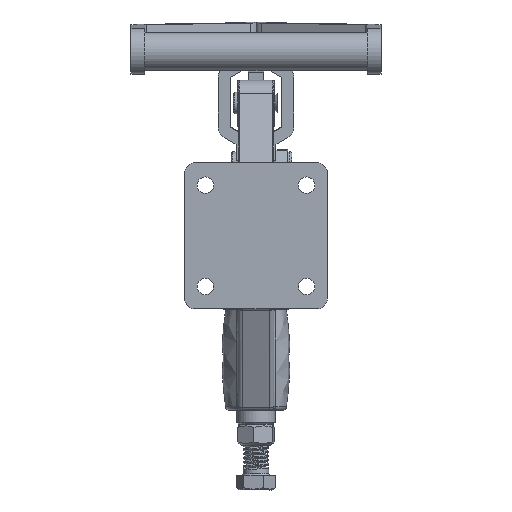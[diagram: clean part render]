
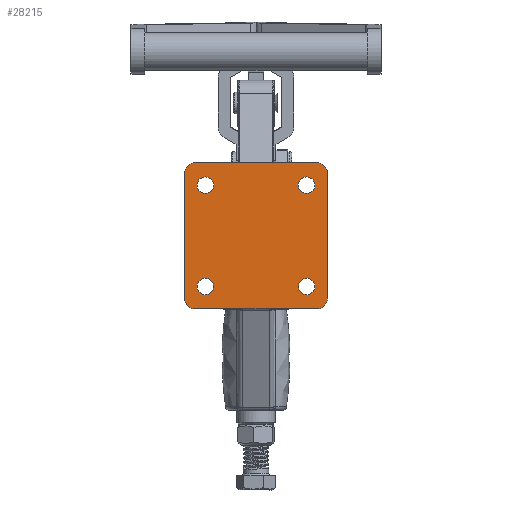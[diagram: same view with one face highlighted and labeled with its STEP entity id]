
A CAD part, front view. The second image highlights one B-rep face of the part: STEP entity #28215.
In plain terms, the highlighted planar face has unit normal (0, -1, 0).
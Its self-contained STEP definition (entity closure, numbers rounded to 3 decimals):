
#353=FACE_BOUND('',#4174,.T.);
#354=FACE_BOUND('',#4175,.T.);
#355=FACE_BOUND('',#4176,.T.);
#356=FACE_BOUND('',#4177,.T.);
#434=PLANE('',#30186);
#2521=FACE_OUTER_BOUND('',#4173,.T.);
#4173=EDGE_LOOP('',(#19597,#19598,#19599,#19600,#19601,#19602,#19603,#19604));
#4174=EDGE_LOOP('',(#19605,#19606));
#4175=EDGE_LOOP('',(#19607,#19608));
#4176=EDGE_LOOP('',(#19609,#19610));
#4177=EDGE_LOOP('',(#19611,#19612));
#5921=LINE('',#41172,#8499);
#5932=LINE('',#41276,#8510);
#5935=LINE('',#41282,#8513);
#5936=LINE('',#41287,#8514);
#8499=VECTOR('',#33028,1000.);
#8510=VECTOR('',#33061,1000.);
#8513=VECTOR('',#33066,1000.);
#8514=VECTOR('',#33071,1000.);
#11064=CIRCLE('',#30129,4.15);
#11065=CIRCLE('',#30130,4.15);
#11068=CIRCLE('',#30134,4.15);
#11069=CIRCLE('',#30135,4.15);
#11072=CIRCLE('',#30139,4.15);
#11073=CIRCLE('',#30140,4.15);
#11076=CIRCLE('',#30144,4.15);
#11077=CIRCLE('',#30145,4.15);
#11099=CIRCLE('',#30187,5.);
#11100=CIRCLE('',#30188,5.);
#11101=CIRCLE('',#30189,5.);
#11102=CIRCLE('',#30190,5.);
#12230=VERTEX_POINT('',#40829);
#12231=VERTEX_POINT('',#40830);
#12234=VERTEX_POINT('',#40839);
#12235=VERTEX_POINT('',#40840);
#12238=VERTEX_POINT('',#40849);
#12239=VERTEX_POINT('',#40850);
#12242=VERTEX_POINT('',#40859);
#12243=VERTEX_POINT('',#40860);
#12307=VERTEX_POINT('',#41170);
#12308=VERTEX_POINT('',#41171);
#12327=VERTEX_POINT('',#41274);
#12328=VERTEX_POINT('',#41275);
#12329=VERTEX_POINT('',#41280);
#12330=VERTEX_POINT('',#41281);
#12331=VERTEX_POINT('',#41284);
#12332=VERTEX_POINT('',#41286);
#15059=EDGE_CURVE('',#12230,#12231,#11064,.T.);
#15060=EDGE_CURVE('',#12231,#12230,#11065,.T.);
#15064=EDGE_CURVE('',#12234,#12235,#11068,.T.);
#15065=EDGE_CURVE('',#12235,#12234,#11069,.T.);
#15069=EDGE_CURVE('',#12238,#12239,#11072,.T.);
#15070=EDGE_CURVE('',#12239,#12238,#11073,.T.);
#15074=EDGE_CURVE('',#12242,#12243,#11076,.T.);
#15075=EDGE_CURVE('',#12243,#12242,#11077,.T.);
#15147=EDGE_CURVE('',#12307,#12308,#5921,.T.);
#15168=EDGE_CURVE('',#12327,#12328,#5932,.T.);
#15171=EDGE_CURVE('',#12329,#12330,#5935,.T.);
#15172=EDGE_CURVE('',#12330,#12308,#11099,.T.);
#15173=EDGE_CURVE('',#12307,#12331,#11100,.T.);
#15174=EDGE_CURVE('',#12332,#12331,#5936,.T.);
#15175=EDGE_CURVE('',#12332,#12327,#11101,.T.);
#15176=EDGE_CURVE('',#12328,#12329,#11102,.T.);
#19597=ORIENTED_EDGE('',*,*,#15171,.T.);
#19598=ORIENTED_EDGE('',*,*,#15172,.T.);
#19599=ORIENTED_EDGE('',*,*,#15147,.F.);
#19600=ORIENTED_EDGE('',*,*,#15173,.T.);
#19601=ORIENTED_EDGE('',*,*,#15174,.F.);
#19602=ORIENTED_EDGE('',*,*,#15175,.T.);
#19603=ORIENTED_EDGE('',*,*,#15168,.T.);
#19604=ORIENTED_EDGE('',*,*,#15176,.T.);
#19605=ORIENTED_EDGE('',*,*,#15059,.T.);
#19606=ORIENTED_EDGE('',*,*,#15060,.T.);
#19607=ORIENTED_EDGE('',*,*,#15064,.T.);
#19608=ORIENTED_EDGE('',*,*,#15065,.T.);
#19609=ORIENTED_EDGE('',*,*,#15074,.T.);
#19610=ORIENTED_EDGE('',*,*,#15075,.T.);
#19611=ORIENTED_EDGE('',*,*,#15069,.T.);
#19612=ORIENTED_EDGE('',*,*,#15070,.T.);
#28215=ADVANCED_FACE('',(#2521,#353,#354,#355,#356),#434,.F.);
#30129=AXIS2_PLACEMENT_3D('',#40831,#32888,#32889);
#30130=AXIS2_PLACEMENT_3D('',#40832,#32890,#32891);
#30134=AXIS2_PLACEMENT_3D('',#40841,#32899,#32900);
#30135=AXIS2_PLACEMENT_3D('',#40842,#32901,#32902);
#30139=AXIS2_PLACEMENT_3D('',#40851,#32910,#32911);
#30140=AXIS2_PLACEMENT_3D('',#40852,#32912,#32913);
#30144=AXIS2_PLACEMENT_3D('',#40861,#32921,#32922);
#30145=AXIS2_PLACEMENT_3D('',#40862,#32923,#32924);
#30186=AXIS2_PLACEMENT_3D('',#41279,#33064,#33065);
#30187=AXIS2_PLACEMENT_3D('',#41283,#33067,#33068);
#30188=AXIS2_PLACEMENT_3D('',#41285,#33069,#33070);
#30189=AXIS2_PLACEMENT_3D('',#41288,#33072,#33073);
#30190=AXIS2_PLACEMENT_3D('',#41289,#33074,#33075);
#32888=DIRECTION('center_axis',(0.,1.,0.));
#32889=DIRECTION('ref_axis',(0.,0.,1.));
#32890=DIRECTION('center_axis',(0.,1.,0.));
#32891=DIRECTION('ref_axis',(0.,0.,1.));
#32899=DIRECTION('center_axis',(0.,1.,0.));
#32900=DIRECTION('ref_axis',(0.,0.,1.));
#32901=DIRECTION('center_axis',(0.,1.,0.));
#32902=DIRECTION('ref_axis',(0.,0.,1.));
#32910=DIRECTION('center_axis',(0.,1.,0.));
#32911=DIRECTION('ref_axis',(0.,0.,1.));
#32912=DIRECTION('center_axis',(0.,1.,0.));
#32913=DIRECTION('ref_axis',(0.,0.,1.));
#32921=DIRECTION('center_axis',(0.,1.,0.));
#32922=DIRECTION('ref_axis',(0.,0.,1.));
#32923=DIRECTION('center_axis',(0.,1.,0.));
#32924=DIRECTION('ref_axis',(0.,0.,1.));
#33028=DIRECTION('',(0.,0.,-1.));
#33061=DIRECTION('',(0.,0.,-1.));
#33064=DIRECTION('center_axis',(0.,1.,0.));
#33065=DIRECTION('ref_axis',(0.,0.,1.));
#33066=DIRECTION('',(1.,0.,0.));
#33067=DIRECTION('center_axis',(0.,-1.,0.));
#33068=DIRECTION('ref_axis',(0.,0.,1.));
#33069=DIRECTION('center_axis',(0.,-1.,0.));
#33070=DIRECTION('ref_axis',(0.,0.,1.));
#33071=DIRECTION('',(1.,0.,0.));
#33072=DIRECTION('center_axis',(0.,-1.,0.));
#33073=DIRECTION('ref_axis',(0.,0.,1.));
#33074=DIRECTION('center_axis',(0.,-1.,0.));
#33075=DIRECTION('ref_axis',(0.,0.,1.));
#40829=CARTESIAN_POINT('',(25.4,0.,15.35));
#40830=CARTESIAN_POINT('',(25.4,0.,7.05));
#40831=CARTESIAN_POINT('Origin',(25.4,0.,11.2));
#40832=CARTESIAN_POINT('Origin',(25.4,0.,11.2));
#40839=CARTESIAN_POINT('',(25.4,0.,66.15));
#40840=CARTESIAN_POINT('',(25.4,0.,57.85));
#40841=CARTESIAN_POINT('Origin',(25.4,0.,62.));
#40842=CARTESIAN_POINT('Origin',(25.4,0.,62.));
#40849=CARTESIAN_POINT('',(-25.4,0.,15.35));
#40850=CARTESIAN_POINT('',(-25.4,0.,7.05));
#40851=CARTESIAN_POINT('Origin',(-25.4,0.,11.2));
#40852=CARTESIAN_POINT('Origin',(-25.4,0.,11.2));
#40859=CARTESIAN_POINT('',(-25.4,0.,66.15));
#40860=CARTESIAN_POINT('',(-25.4,0.,57.85));
#40861=CARTESIAN_POINT('Origin',(-25.4,0.,62.));
#40862=CARTESIAN_POINT('Origin',(-25.4,0.,62.));
#41170=CARTESIAN_POINT('',(35.7,0.,68.2));
#41171=CARTESIAN_POINT('',(35.7,0.,5.));
#41172=CARTESIAN_POINT('',(35.7,0.,73.2));
#41274=CARTESIAN_POINT('',(-35.7,0.,68.2));
#41275=CARTESIAN_POINT('',(-35.7,0.,5.));
#41276=CARTESIAN_POINT('',(-35.7,0.,73.2));
#41279=CARTESIAN_POINT('Origin',(-35.7,0.,73.2));
#41280=CARTESIAN_POINT('',(-30.7,0.,0.));
#41281=CARTESIAN_POINT('',(30.7,0.,0.));
#41282=CARTESIAN_POINT('',(-35.7,0.,0.));
#41283=CARTESIAN_POINT('Origin',(30.7,0.,5.));
#41284=CARTESIAN_POINT('',(30.7,0.,73.2));
#41285=CARTESIAN_POINT('Origin',(30.7,0.,68.2));
#41286=CARTESIAN_POINT('',(-30.7,0.,73.2));
#41287=CARTESIAN_POINT('',(-35.7,0.,73.2));
#41288=CARTESIAN_POINT('Origin',(-30.7,0.,68.2));
#41289=CARTESIAN_POINT('Origin',(-30.7,0.,5.));
